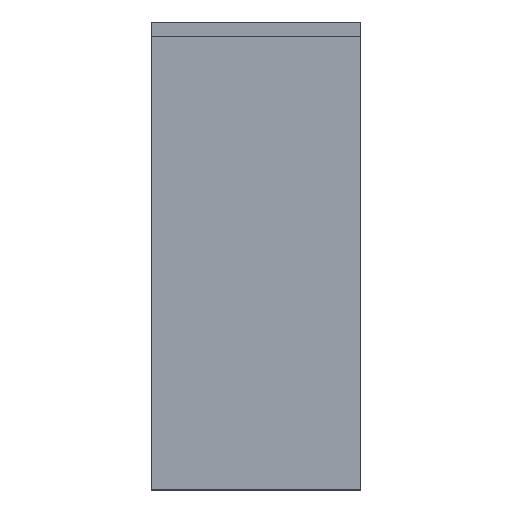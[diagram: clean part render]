
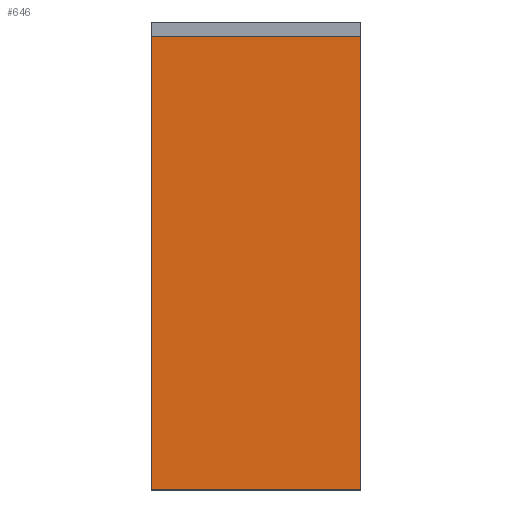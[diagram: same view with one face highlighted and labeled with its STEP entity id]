
A CAD part, top view. The second image highlights one B-rep face of the part: STEP entity #646.
In plain terms, the highlighted planar face has unit normal (0, 0, 1).
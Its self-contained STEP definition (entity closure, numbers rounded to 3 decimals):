
#32 = PLANE('',#33);
#33 = AXIS2_PLACEMENT_3D('',#34,#35,#36);
#34 = CARTESIAN_POINT('',(-1.85,13.15,7.9));
#35 = DIRECTION('',(1.,0.,0.));
#36 = DIRECTION('',(0.,0.,1.));
#141 = VERTEX_POINT('',#142);
#142 = CARTESIAN_POINT('',(-1.85,16.6,22.6));
#156 = PLANE('',#157);
#157 = AXIS2_PLACEMENT_3D('',#158,#159,#160);
#158 = CARTESIAN_POINT('',(-1.85,16.6,20.6));
#159 = DIRECTION('',(0.,1.,0.));
#160 = DIRECTION('',(0.,0.,1.));
#168 = EDGE_CURVE('',#169,#141,#171,.T.);
#169 = VERTEX_POINT('',#170);
#170 = CARTESIAN_POINT('',(-1.85,8.6,22.6));
#171 = SURFACE_CURVE('',#172,(#176,#183),.PCURVE_S1.);
#172 = LINE('',#173,#174);
#173 = CARTESIAN_POINT('',(-1.85,8.6,22.6));
#174 = VECTOR('',#175,1.);
#175 = DIRECTION('',(0.,1.,0.));
#176 = PCURVE('',#32,#177);
#177 = DEFINITIONAL_REPRESENTATION('',(#178),#182);
#178 = LINE('',#179,#180);
#179 = CARTESIAN_POINT('',(14.7,4.55));
#180 = VECTOR('',#181,1.);
#181 = DIRECTION('',(0.,-1.));
#182 = ( GEOMETRIC_REPRESENTATION_CONTEXT(2) 
PARAMETRIC_REPRESENTATION_CONTEXT() REPRESENTATION_CONTEXT('2D SPACE',''
  ) );
#183 = PCURVE('',#184,#189);
#184 = PLANE('',#185);
#185 = AXIS2_PLACEMENT_3D('',#186,#187,#188);
#186 = CARTESIAN_POINT('',(-1.85,8.6,22.6));
#187 = DIRECTION('',(0.,0.,1.));
#188 = DIRECTION('',(1.,0.,0.));
#189 = DEFINITIONAL_REPRESENTATION('',(#190),#194);
#190 = LINE('',#191,#192);
#191 = CARTESIAN_POINT('',(0.,0.));
#192 = VECTOR('',#193,1.);
#193 = DIRECTION('',(0.,1.));
#194 = ( GEOMETRIC_REPRESENTATION_CONTEXT(2) 
PARAMETRIC_REPRESENTATION_CONTEXT() REPRESENTATION_CONTEXT('2D SPACE',''
  ) );
#212 = PLANE('',#213);
#213 = AXIS2_PLACEMENT_3D('',#214,#215,#216);
#214 = CARTESIAN_POINT('',(-1.85,8.6,20.6));
#215 = DIRECTION('',(0.,1.,0.));
#216 = DIRECTION('',(0.,0.,1.));
#271 = PLANE('',#272);
#272 = AXIS2_PLACEMENT_3D('',#273,#274,#275);
#273 = CARTESIAN_POINT('',(1.85,13.15,7.9));
#274 = DIRECTION('',(1.,0.,0.));
#275 = DIRECTION('',(0.,0.,1.));
#477 = VERTEX_POINT('',#478);
#478 = CARTESIAN_POINT('',(1.85,16.6,22.6));
#499 = EDGE_CURVE('',#500,#477,#502,.T.);
#500 = VERTEX_POINT('',#501);
#501 = CARTESIAN_POINT('',(1.85,8.6,22.6));
#502 = SURFACE_CURVE('',#503,(#507,#514),.PCURVE_S1.);
#503 = LINE('',#504,#505);
#504 = CARTESIAN_POINT('',(1.85,8.6,22.6));
#505 = VECTOR('',#506,1.);
#506 = DIRECTION('',(0.,1.,0.));
#507 = PCURVE('',#271,#508);
#508 = DEFINITIONAL_REPRESENTATION('',(#509),#513);
#509 = LINE('',#510,#511);
#510 = CARTESIAN_POINT('',(14.7,4.55));
#511 = VECTOR('',#512,1.);
#512 = DIRECTION('',(0.,-1.));
#513 = ( GEOMETRIC_REPRESENTATION_CONTEXT(2) 
PARAMETRIC_REPRESENTATION_CONTEXT() REPRESENTATION_CONTEXT('2D SPACE',''
  ) );
#514 = PCURVE('',#184,#515);
#515 = DEFINITIONAL_REPRESENTATION('',(#516),#520);
#516 = LINE('',#517,#518);
#517 = CARTESIAN_POINT('',(3.7,0.));
#518 = VECTOR('',#519,1.);
#519 = DIRECTION('',(0.,1.));
#520 = ( GEOMETRIC_REPRESENTATION_CONTEXT(2) 
PARAMETRIC_REPRESENTATION_CONTEXT() REPRESENTATION_CONTEXT('2D SPACE',''
  ) );
#599 = EDGE_CURVE('',#141,#477,#600,.T.);
#600 = SURFACE_CURVE('',#601,(#605,#612),.PCURVE_S1.);
#601 = LINE('',#602,#603);
#602 = CARTESIAN_POINT('',(-1.85,16.6,22.6));
#603 = VECTOR('',#604,1.);
#604 = DIRECTION('',(1.,0.,0.));
#605 = PCURVE('',#156,#606);
#606 = DEFINITIONAL_REPRESENTATION('',(#607),#611);
#607 = LINE('',#608,#609);
#608 = CARTESIAN_POINT('',(2.,0.));
#609 = VECTOR('',#610,1.);
#610 = DIRECTION('',(0.,1.));
#611 = ( GEOMETRIC_REPRESENTATION_CONTEXT(2) 
PARAMETRIC_REPRESENTATION_CONTEXT() REPRESENTATION_CONTEXT('2D SPACE',''
  ) );
#612 = PCURVE('',#184,#613);
#613 = DEFINITIONAL_REPRESENTATION('',(#614),#618);
#614 = LINE('',#615,#616);
#615 = CARTESIAN_POINT('',(0.,8.));
#616 = VECTOR('',#617,1.);
#617 = DIRECTION('',(1.,0.));
#618 = ( GEOMETRIC_REPRESENTATION_CONTEXT(2) 
PARAMETRIC_REPRESENTATION_CONTEXT() REPRESENTATION_CONTEXT('2D SPACE',''
  ) );
#625 = EDGE_CURVE('',#169,#500,#626,.T.);
#626 = SURFACE_CURVE('',#627,(#631,#638),.PCURVE_S1.);
#627 = LINE('',#628,#629);
#628 = CARTESIAN_POINT('',(-1.85,8.6,22.6));
#629 = VECTOR('',#630,1.);
#630 = DIRECTION('',(1.,0.,0.));
#631 = PCURVE('',#212,#632);
#632 = DEFINITIONAL_REPRESENTATION('',(#633),#637);
#633 = LINE('',#634,#635);
#634 = CARTESIAN_POINT('',(2.,0.));
#635 = VECTOR('',#636,1.);
#636 = DIRECTION('',(0.,1.));
#637 = ( GEOMETRIC_REPRESENTATION_CONTEXT(2) 
PARAMETRIC_REPRESENTATION_CONTEXT() REPRESENTATION_CONTEXT('2D SPACE',''
  ) );
#638 = PCURVE('',#184,#639);
#639 = DEFINITIONAL_REPRESENTATION('',(#640),#644);
#640 = LINE('',#641,#642);
#641 = CARTESIAN_POINT('',(0.,0.));
#642 = VECTOR('',#643,1.);
#643 = DIRECTION('',(1.,0.));
#644 = ( GEOMETRIC_REPRESENTATION_CONTEXT(2) 
PARAMETRIC_REPRESENTATION_CONTEXT() REPRESENTATION_CONTEXT('2D SPACE',''
  ) );
#646 = ADVANCED_FACE('',(#647),#184,.T.);
#647 = FACE_BOUND('',#648,.T.);
#648 = EDGE_LOOP('',(#649,#650,#651,#652));
#649 = ORIENTED_EDGE('',*,*,#168,.F.);
#650 = ORIENTED_EDGE('',*,*,#625,.T.);
#651 = ORIENTED_EDGE('',*,*,#499,.T.);
#652 = ORIENTED_EDGE('',*,*,#599,.F.);
